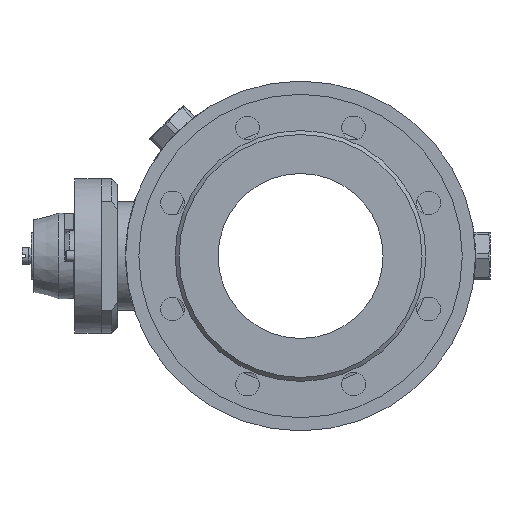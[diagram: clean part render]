
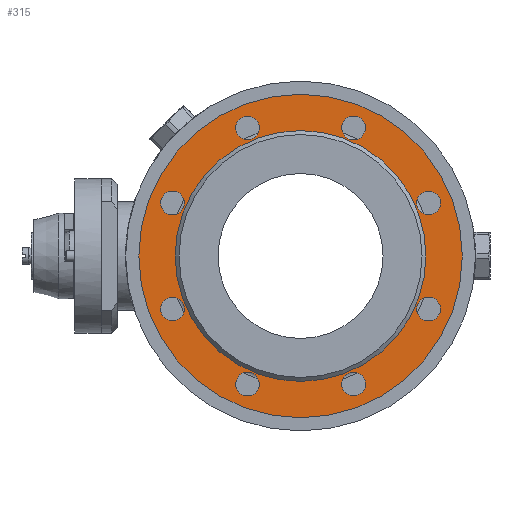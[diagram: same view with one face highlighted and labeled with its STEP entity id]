
A CAD part, left-side view. The second image highlights one B-rep face of the part: STEP entity #315.
In plain terms, the highlighted planar face has unit normal (-1, 0, 0).
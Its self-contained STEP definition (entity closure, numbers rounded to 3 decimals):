
#315=ADVANCED_FACE('',(#3947,#3949,#3951,#3953,#3955,#3957,#3959,#3961,#3963,#3965),
#3967,.T.);
#3947=FACE_BOUND('',#3948,.T.);
#3948=EDGE_LOOP('',(#7932));
#3949=FACE_BOUND('',#3950,.T.);
#3950=EDGE_LOOP('',(#7933));
#3951=FACE_BOUND('',#3952,.T.);
#3952=EDGE_LOOP('',(#7934));
#3953=FACE_BOUND('',#3954,.T.);
#3954=EDGE_LOOP('',(#7935));
#3955=FACE_BOUND('',#3956,.T.);
#3956=EDGE_LOOP('',(#7936));
#3957=FACE_BOUND('',#3958,.T.);
#3958=EDGE_LOOP('',(#7937));
#3959=FACE_BOUND('',#3960,.T.);
#3960=EDGE_LOOP('',(#7938));
#3961=FACE_BOUND('',#3962,.T.);
#3962=EDGE_LOOP('',(#7939));
#3963=FACE_BOUND('',#3964,.T.);
#3964=EDGE_LOOP('',(#7940));
#3965=FACE_OUTER_BOUND('',#3966,.T.);
#3966=EDGE_LOOP('',(#7941));
#3967=PLANE('',#3968);
#3968=AXIS2_PLACEMENT_3D('',#3969,#3970,#3971);
#3969=CARTESIAN_POINT('',(-132.,0.,0.));
#3970=DIRECTION('',(-1.,-0.,-0.));
#3971=DIRECTION('',(0.,1.,0.));
#7932=ORIENTED_EDGE('',*,*,#10911,.T.);
#7933=ORIENTED_EDGE('',*,*,#10845,.T.);
#7934=ORIENTED_EDGE('',*,*,#10912,.T.);
#7935=ORIENTED_EDGE('',*,*,#10913,.T.);
#7936=ORIENTED_EDGE('',*,*,#10914,.T.);
#7937=ORIENTED_EDGE('',*,*,#10915,.T.);
#7938=ORIENTED_EDGE('',*,*,#10916,.T.);
#7939=ORIENTED_EDGE('',*,*,#10917,.T.);
#7940=ORIENTED_EDGE('',*,*,#10918,.T.);
#7941=ORIENTED_EDGE('',*,*,#10919,.F.);
#10845=EDGE_CURVE('',#12402,#12402,#12404,.T.);
#10911=EDGE_CURVE('',#12501,#12501,#12502,.F.);
#10912=EDGE_CURVE('',#12503,#12503,#12504,.F.);
#10913=EDGE_CURVE('',#12505,#12505,#12506,.F.);
#10914=EDGE_CURVE('',#12507,#12507,#12508,.F.);
#10915=EDGE_CURVE('',#12509,#12509,#12510,.F.);
#10916=EDGE_CURVE('',#12511,#12511,#12512,.F.);
#10917=EDGE_CURVE('',#12513,#12513,#12514,.F.);
#10918=EDGE_CURVE('',#12515,#12515,#12516,.F.);
#10919=EDGE_CURVE('',#12517,#12517,#12518,.T.);
#12402=VERTEX_POINT('',#22647);
#12404=CIRCLE('',#22651,95.);
#12501=VERTEX_POINT('',#22916);
#12502=CIRCLE('',#22917,9.);
#12503=VERTEX_POINT('',#22921);
#12504=CIRCLE('',#22922,9.);
#12505=VERTEX_POINT('',#22926);
#12506=CIRCLE('',#22927,9.);
#12507=VERTEX_POINT('',#22931);
#12508=CIRCLE('',#22932,9.);
#12509=VERTEX_POINT('',#22936);
#12510=CIRCLE('',#22937,9.);
#12511=VERTEX_POINT('',#22941);
#12512=CIRCLE('',#22942,9.);
#12513=VERTEX_POINT('',#22946);
#12514=CIRCLE('',#22947,9.);
#12515=VERTEX_POINT('',#22951);
#12516=CIRCLE('',#22952,9.);
#12517=VERTEX_POINT('',#22956);
#12518=CIRCLE('',#22957,122.5);
#22647=CARTESIAN_POINT('',(-132.,95.,0.));
#22651=AXIS2_PLACEMENT_3D('',#22652,#22653,#22654);
#22652=CARTESIAN_POINT('',(-132.,0.,0.));
#22653=DIRECTION('',(1.,0.,0.));
#22654=DIRECTION('',(0.,1.,0.));
#22916=CARTESIAN_POINT('',(-132.,-97.007,-49.182));
#22917=AXIS2_PLACEMENT_3D('',#22918,#22919,#22920);
#22918=CARTESIAN_POINT('',(-132.,-97.007,-40.182));
#22919=DIRECTION('',(-1.,-0.,-0.));
#22920=DIRECTION('',(0.,0.,-1.));
#22921=CARTESIAN_POINT('',(-132.,-33.818,-103.371));
#22922=AXIS2_PLACEMENT_3D('',#22923,#22924,#22925);
#22923=CARTESIAN_POINT('',(-132.,-40.182,-97.007));
#22924=DIRECTION('',(-1.,-0.,-0.));
#22925=DIRECTION('',(0.,0.707,-0.707));
#22926=CARTESIAN_POINT('',(-132.,49.182,-97.007));
#22927=AXIS2_PLACEMENT_3D('',#22928,#22929,#22930);
#22928=CARTESIAN_POINT('',(-132.,40.182,-97.007));
#22929=DIRECTION('',(-1.,-0.,-0.));
#22930=DIRECTION('',(0.,1.,0.));
#22931=CARTESIAN_POINT('',(-132.,103.371,-33.818));
#22932=AXIS2_PLACEMENT_3D('',#22933,#22934,#22935);
#22933=CARTESIAN_POINT('',(-132.,97.007,-40.182));
#22934=DIRECTION('',(-1.,-0.,-0.));
#22935=DIRECTION('',(0.,0.707,0.707));
#22936=CARTESIAN_POINT('',(-132.,97.007,49.182));
#22937=AXIS2_PLACEMENT_3D('',#22938,#22939,#22940);
#22938=CARTESIAN_POINT('',(-132.,97.007,40.182));
#22939=DIRECTION('',(-1.,-0.,-0.));
#22940=DIRECTION('',(0.,0.,1.));
#22941=CARTESIAN_POINT('',(-132.,33.818,103.371));
#22942=AXIS2_PLACEMENT_3D('',#22943,#22944,#22945);
#22943=CARTESIAN_POINT('',(-132.,40.182,97.007));
#22944=DIRECTION('',(-1.,-0.,-0.));
#22945=DIRECTION('',(-0.,-0.707,0.707));
#22946=CARTESIAN_POINT('',(-132.,-49.182,97.007));
#22947=AXIS2_PLACEMENT_3D('',#22948,#22949,#22950);
#22948=CARTESIAN_POINT('',(-132.,-40.182,97.007));
#22949=DIRECTION('',(-1.,-0.,-0.));
#22950=DIRECTION('',(0.,-1.,-0.));
#22951=CARTESIAN_POINT('',(-132.,-103.371,33.818));
#22952=AXIS2_PLACEMENT_3D('',#22953,#22954,#22955);
#22953=CARTESIAN_POINT('',(-132.,-97.007,40.182));
#22954=DIRECTION('',(-1.,-0.,-0.));
#22955=DIRECTION('',(0.,-0.707,-0.707));
#22956=CARTESIAN_POINT('',(-132.,122.5,0.));
#22957=AXIS2_PLACEMENT_3D('',#22958,#22959,#22960);
#22958=CARTESIAN_POINT('',(-132.,0.,0.));
#22959=DIRECTION('',(1.,0.,0.));
#22960=DIRECTION('',(0.,1.,0.));
